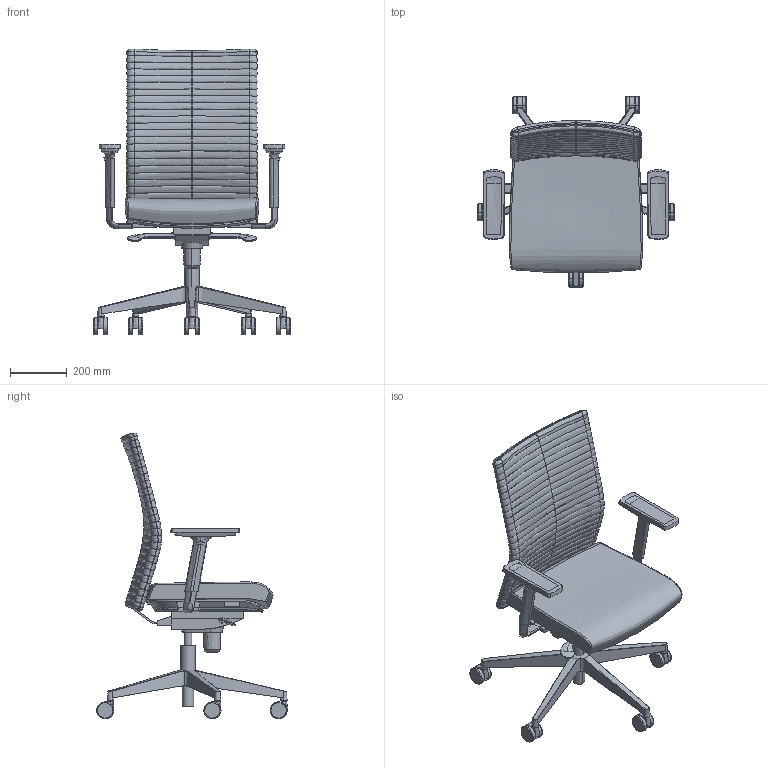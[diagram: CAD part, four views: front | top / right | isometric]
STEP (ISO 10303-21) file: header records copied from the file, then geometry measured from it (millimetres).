
FILE_DESCRIPTION(/* description */ (''),/* implementation_level */ '2;1');
FILE_NAME(/* name */ 'ELEMEN~1',/* time_stamp */ '2017-07-24T16:46:09+02:00',/* author */ (''),/* organization */ (''),/* preprocessor_version */ 'ST-DEVELOPER v15',/* originating_system */ '',/* authorisation */ '');
FILE_SCHEMA (('CONFIG_CONTROL_DESIGN'));
Length unit declared in the file: millimetre
Products named in the file (1): Document
Bounding box: 694.82 x 673.73 x 1010.79 mm (x, y, z)
Volume: 3756410.4 mm3; surface area: 2208692.2 mm2
Topology: 15 solids, 44 shells, 717 faces, 1676 edges, 986 vertices
Faces by surface type: bspline 577, plane 140
Entity records: 57133 total; most frequent: CARTESIAN_POINT 47097, ORIENTED_EDGE 3037, EDGE_CURVE 1652, B_SPLINE_CURVE_WITH_KNOTS 1201, VERTEX_POINT 980, EDGE_LOOP 721, ADVANCED_FACE 717, FACE_OUTER_BOUND 717
